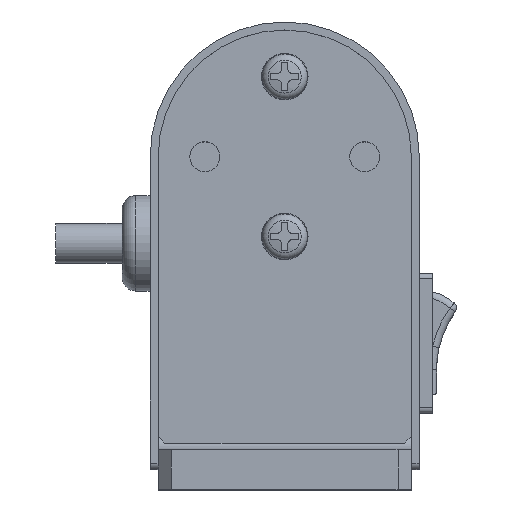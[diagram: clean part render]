
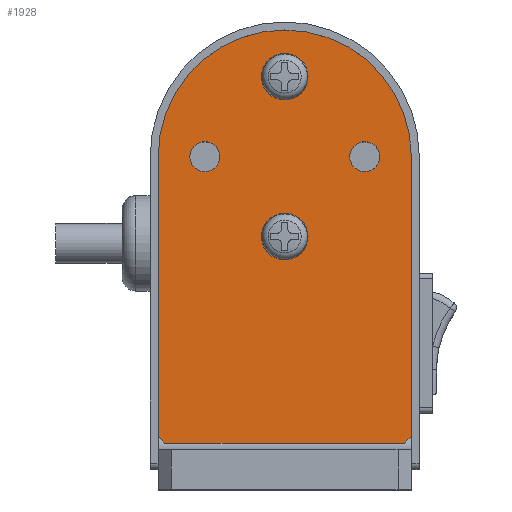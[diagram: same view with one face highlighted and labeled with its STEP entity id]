
A CAD part, top view. The second image highlights one B-rep face of the part: STEP entity #1928.
In plain terms, the highlighted planar face has unit normal (0, 0, 1).
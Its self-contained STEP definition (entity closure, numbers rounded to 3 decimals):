
#230 = CARTESIAN_POINT ( 'NONE',  ( -19., 50., -21.6 ) ) ;
#310 = EDGE_CURVE ( 'NONE', #10224, #10224, #641, .T. ) ;
#311 = EDGE_CURVE ( 'NONE', #10226, #10226, #645, .T. ) ;
#330 = EDGE_CURVE ( 'NONE', #10752, #10846, #667, .T. ) ;
#385 = EDGE_CURVE ( 'NONE', #10695, #10737, #760, .T. ) ;
#401 = EDGE_CURVE ( 'NONE', #10846, #10695, #787, .T. ) ;
#430 = AXIS2_PLACEMENT_3D ( 'NONE', #1573, #1549, #1531 ) ;
#431 = AXIS2_PLACEMENT_3D ( 'NONE', #1566, #1535, #1539 ) ;
#467 = AXIS2_PLACEMENT_3D ( 'NONE', #2220, #2227, #2196 ) ;
#641 = CIRCLE ( 'NONE', #430, 3.5 ) ;
#645 = CIRCLE ( 'NONE', #431, 3.5 ) ;
#667 = LINE ( 'NONE', #839, #672 ) ;
#672 = VECTOR ( 'NONE', #838, 1000. ) ;
#760 = LINE ( 'NONE', #230, #762 ) ;
#762 = VECTOR ( 'NONE', #3231, 1000. ) ;
#787 = CIRCLE ( 'NONE', #467, 19. ) ;
#838 = DIRECTION ( 'NONE',  ( 0., 1., 0. ) ) ;
#839 = CARTESIAN_POINT ( 'NONE',  ( 19., 7., -21.6 ) ) ;
#1531 = DIRECTION ( 'NONE',  ( 1., 0., 0. ) ) ;
#1535 = DIRECTION ( 'NONE',  ( 0., 0., 1. ) ) ;
#1539 = DIRECTION ( 'NONE',  ( 1., 0., 0. ) ) ;
#1549 = DIRECTION ( 'NONE',  ( 0., 0., 1. ) ) ;
#1566 = CARTESIAN_POINT ( 'NONE',  ( 0., 38., -21.6 ) ) ;
#1573 = CARTESIAN_POINT ( 'NONE',  ( 0., 62., -21.6 ) ) ;
#1928 = ADVANCED_FACE ( 'NONE', ( #9827, #9831, #9828, #9830, #9829 ), #9209, .T. ) ;
#1955 = EDGE_CURVE ( 'NONE', #10805, #10752, #9856, .T. ) ;
#1958 = EDGE_CURVE ( 'NONE', #10737, #10774, #9861, .T. ) ;
#1961 = EDGE_CURVE ( 'NONE', #10241, #10241, #9869, .T. ) ;
#1963 = EDGE_CURVE ( 'NONE', #10243, #10243, #9874, .T. ) ;
#1966 = EDGE_CURVE ( 'NONE', #10774, #10805, #9872, .T. ) ;
#2196 = DIRECTION ( 'NONE',  ( 1., 0., 0. ) ) ;
#2220 = CARTESIAN_POINT ( 'NONE',  ( 0., 50., -21.6 ) ) ;
#2227 = DIRECTION ( 'NONE',  ( 0., 0., 1. ) ) ;
#2839 = ORIENTED_EDGE ( 'NONE', *, *, #310, .F. ) ;
#2840 = ORIENTED_EDGE ( 'NONE', *, *, #1961, .F. ) ;
#2841 = ORIENTED_EDGE ( 'NONE', *, *, #1963, .F. ) ;
#2842 = ORIENTED_EDGE ( 'NONE', *, *, #385, .T. ) ;
#2843 = ORIENTED_EDGE ( 'NONE', *, *, #1958, .T. ) ;
#2844 = ORIENTED_EDGE ( 'NONE', *, *, #1966, .T. ) ;
#2845 = ORIENTED_EDGE ( 'NONE', *, *, #1955, .T. ) ;
#2846 = ORIENTED_EDGE ( 'NONE', *, *, #330, .T. ) ;
#2847 = ORIENTED_EDGE ( 'NONE', *, *, #401, .T. ) ;
#2848 = ORIENTED_EDGE ( 'NONE', *, *, #311, .F. ) ;
#3231 = DIRECTION ( 'NONE',  ( 0., -1., 0. ) ) ;
#4148 = EDGE_LOOP ( 'NONE', ( #2840 ) ) ;
#8562 = AXIS2_PLACEMENT_3D ( 'NONE', #9217, #9218, #9219 ) ;
#8574 = AXIS2_PLACEMENT_3D ( 'NONE', #9276, #9277, #9278 ) ;
#8576 = AXIS2_PLACEMENT_3D ( 'NONE', #9284, #9285, #9286 ) ;
#9209 = PLANE ( 'NONE',  #8562 ) ;
#9217 = CARTESIAN_POINT ( 'NONE',  ( 0., 50., -21.6 ) ) ;
#9218 = DIRECTION ( 'NONE',  ( 0., 0., 1. ) ) ;
#9219 = DIRECTION ( 'NONE',  ( 1., 0., 0. ) ) ;
#9251 = DIRECTION ( 'NONE',  ( 0.707, 0.707, 0. ) ) ;
#9255 = CARTESIAN_POINT ( 'NONE',  ( 30.5, 19.5, -21.6 ) ) ;
#9259 = CARTESIAN_POINT ( 'NONE',  ( -30.5, 19.5, -21.6 ) ) ;
#9270 = DIRECTION ( 'NONE',  ( 0.707, -0.707, 0. ) ) ;
#9276 = CARTESIAN_POINT ( 'NONE',  ( 12., 50., -21.6 ) ) ;
#9277 = DIRECTION ( 'NONE',  ( 0., 0., 1. ) ) ;
#9278 = DIRECTION ( 'NONE',  ( 1., 0., 0. ) ) ;
#9279 = CARTESIAN_POINT ( 'NONE',  ( -19., 7., -21.6 ) ) ;
#9284 = CARTESIAN_POINT ( 'NONE',  ( -12., 50., -21.6 ) ) ;
#9285 = DIRECTION ( 'NONE',  ( 0., 0., 1. ) ) ;
#9286 = DIRECTION ( 'NONE',  ( 1., 0., 0. ) ) ;
#9292 = DIRECTION ( 'NONE',  ( 1., 0., 0. ) ) ;
#9827 = FACE_BOUND ( 'NONE', #10857, .T. ) ;
#9828 = FACE_BOUND ( 'NONE', #10777, .T. ) ;
#9829 = FACE_BOUND ( 'NONE', #10819, .T. ) ;
#9830 = FACE_OUTER_BOUND ( 'NONE', #10847, .T. ) ;
#9831 = FACE_BOUND ( 'NONE', #4148, .T. ) ;
#9856 = LINE ( 'NONE', #9255, #9860 ) ;
#9860 = VECTOR ( 'NONE', #9251, 1000. ) ;
#9861 = LINE ( 'NONE', #9259, #9866 ) ;
#9866 = VECTOR ( 'NONE', #9270, 1000. ) ;
#9869 = CIRCLE ( 'NONE', #8574, 2.25 ) ;
#9872 = LINE ( 'NONE', #9279, #9876 ) ;
#9874 = CIRCLE ( 'NONE', #8576, 2.25 ) ;
#9876 = VECTOR ( 'NONE', #9292, 1000. ) ;
#10224 = VERTEX_POINT ( 'NONE', #10617 ) ;
#10226 = VERTEX_POINT ( 'NONE', #10619 ) ;
#10241 = VERTEX_POINT ( 'NONE', #10636 ) ;
#10243 = VERTEX_POINT ( 'NONE', #10638 ) ;
#10466 = CARTESIAN_POINT ( 'NONE',  ( -19., 50., -21.6 ) ) ;
#10504 = CARTESIAN_POINT ( 'NONE',  ( -19., 8., -21.6 ) ) ;
#10516 = CARTESIAN_POINT ( 'NONE',  ( 19., 8., -21.6 ) ) ;
#10536 = CARTESIAN_POINT ( 'NONE',  ( -18., 7., -21.6 ) ) ;
#10562 = CARTESIAN_POINT ( 'NONE',  ( 18., 7., -21.6 ) ) ;
#10599 = CARTESIAN_POINT ( 'NONE',  ( 19., 50., -21.6 ) ) ;
#10617 = CARTESIAN_POINT ( 'NONE',  ( 3.5, 62., -21.6 ) ) ;
#10619 = CARTESIAN_POINT ( 'NONE',  ( 3.5, 38., -21.6 ) ) ;
#10636 = CARTESIAN_POINT ( 'NONE',  ( 14.25, 50., -21.6 ) ) ;
#10638 = CARTESIAN_POINT ( 'NONE',  ( -9.75, 50., -21.6 ) ) ;
#10695 = VERTEX_POINT ( 'NONE', #10466 ) ;
#10737 = VERTEX_POINT ( 'NONE', #10504 ) ;
#10752 = VERTEX_POINT ( 'NONE', #10516 ) ;
#10774 = VERTEX_POINT ( 'NONE', #10536 ) ;
#10777 = EDGE_LOOP ( 'NONE', ( #2841 ) ) ;
#10805 = VERTEX_POINT ( 'NONE', #10562 ) ;
#10819 = EDGE_LOOP ( 'NONE', ( #2848 ) ) ;
#10846 = VERTEX_POINT ( 'NONE', #10599 ) ;
#10847 = EDGE_LOOP ( 'NONE', ( #2842, #2843, #2844, #2845, #2846, #2847 ) ) ;
#10857 = EDGE_LOOP ( 'NONE', ( #2839 ) ) ;
